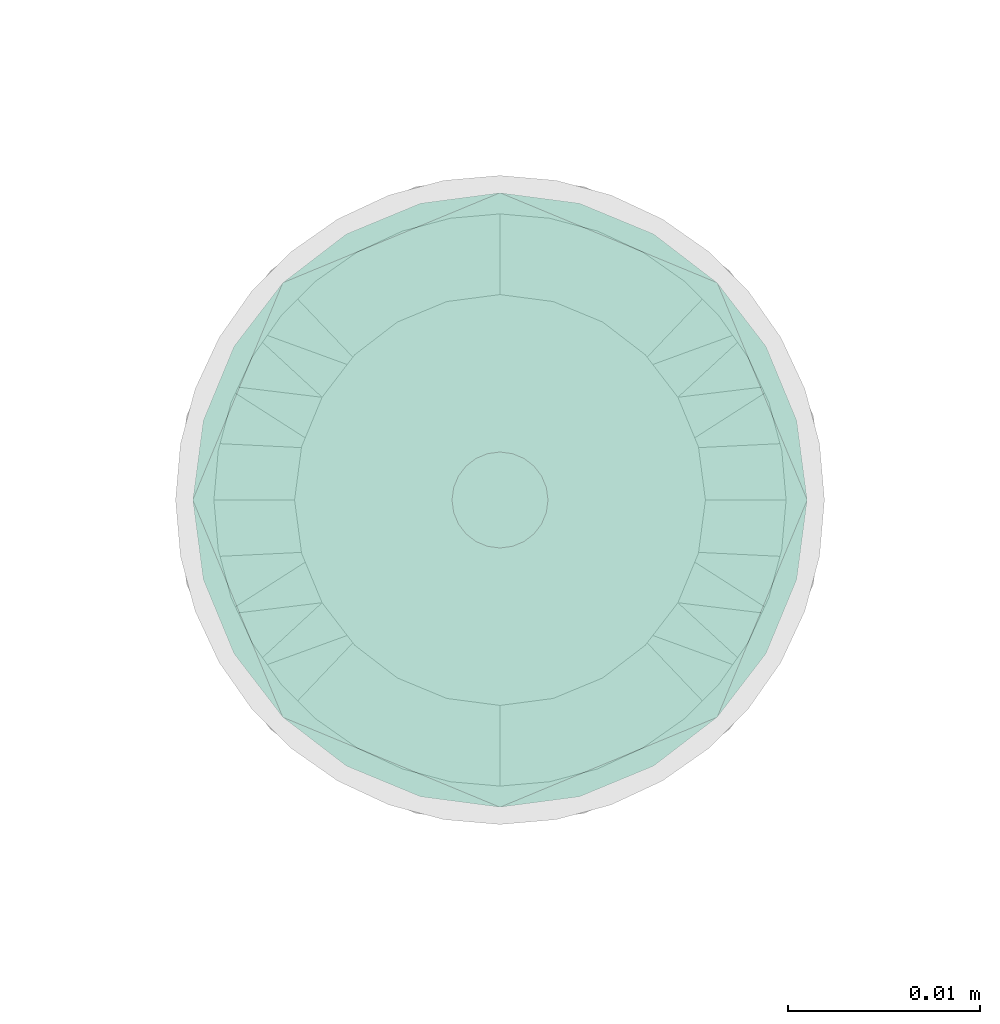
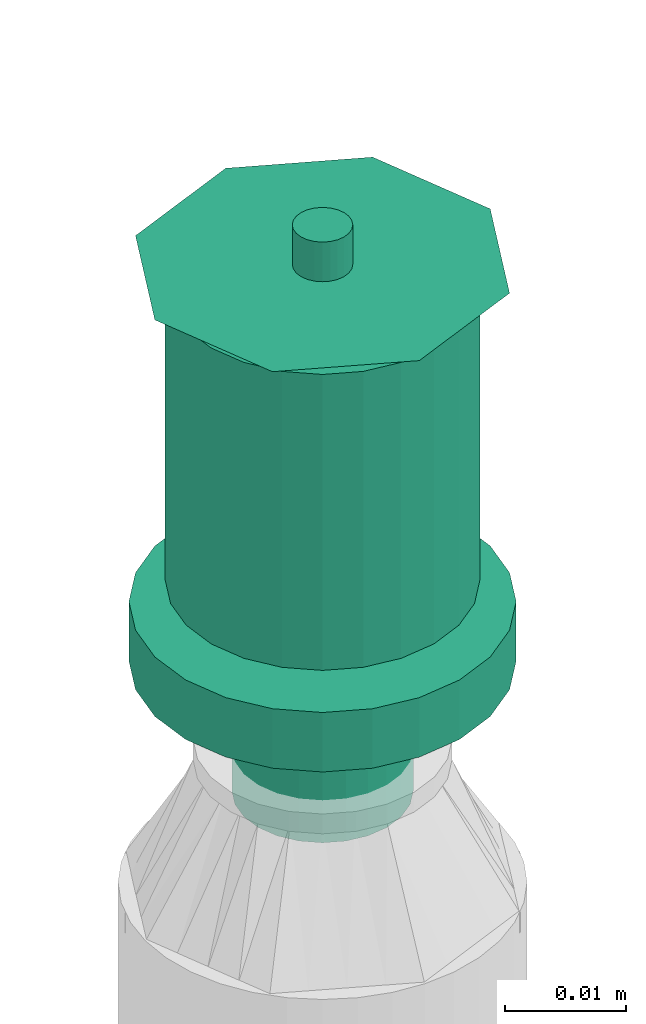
# One storey, part 47 of 63: 1 flow terminal.
"""IFC2X3 building model written with IfcOpenShell, lengths in millimetres."""

from ifc_helpers import new_model, entity, si_unit, converted_unit, derived_unit, direction, frame, origin_with_axes, place, context, subcontext, project, spatial, open_shell, surface_model, source, transform, mapped, type_object, element, save


model = new_model("IFC2X3")

# Units and contexts
model_context = context("Model", 3, precision=0.01, world=frame((0.0, 4.29681676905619e-09, 0.0)), true_north=direction((4.01073788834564e-13, 1.0)))
plan_context = context("Plan", 3, precision=0.01, world=frame((0.0, 4.29681676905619e-09, 0.0)), true_north=direction((4.01073788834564e-13, 1.0)))
body_context = subcontext(model_context, "Body", "Model", "MODEL_VIEW")
ifc_project = project(units=[converted_unit("PLANEANGLEUNIT", "DEGREE", entity("IfcPositiveLengthMeasure", 0.0174532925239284), si_unit("PLANEANGLEUNIT", "RADIAN"), dimensions=[0, 0, 0, 0, 0, 0, 0]), si_unit("AREAUNIT", "SQUARE_METRE"), si_unit("LENGTHUNIT", "METRE", prefix="MILLI"), si_unit("MASSUNIT", "GRAM", prefix="KILO"), si_unit("POWERUNIT", "WATT"), si_unit("PRESSUREUNIT", "PASCAL", prefix="KILO"), si_unit("FORCEUNIT", "NEWTON", prefix="KILO"), si_unit("ELECTRICVOLTAGEUNIT", "VOLT"), si_unit("ELECTRICCURRENTUNIT", "AMPERE"), si_unit("THERMODYNAMICTEMPERATUREUNIT", "DEGREE_CELSIUS"), si_unit("TIMEUNIT", "SECOND"), si_unit("VOLUMEUNIT", "CUBIC_METRE"), derived_unit("LINEARVELOCITYUNIT", [(si_unit("LENGTHUNIT", "METRE"), 1), (si_unit("TIMEUNIT", "SECOND"), -1)]), derived_unit("VOLUMETRICFLOWRATEUNIT", [(si_unit("VOLUMEUNIT", "CUBIC_METRE"), 1), (si_unit("TIMEUNIT", "SECOND"), -1)]), derived_unit("THERMALTRANSMITTANCEUNIT", [(si_unit("POWERUNIT", "WATT"), 1), (si_unit("THERMODYNAMICTEMPERATUREUNIT", "KELVIN"), -1), (si_unit("AREAUNIT", "SQUARE_METRE"), -1)]), derived_unit("SOUNDPRESSUREUNIT", [(si_unit("PRESSUREUNIT", "PASCAL"), 1)])], contexts=[model_context, plan_context])

# Site, building, storey
site_placement = place(None, frame((0.0, -4.29681676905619e-09, 0.0), z_axis=(0.0, 0.0, 1.0), x_axis=(1.0, 0.0, 0.0)))
site = spatial("IfcSite", under=ifc_project, at=site_placement, CompositionType="ELEMENT")
building_placement = place(site_placement, frame((0.0, 4.29681676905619e-09, 0.0), z_axis=(0.0, 0.0, 1.0), x_axis=(1.0, 0.0, 0.0)))
building = spatial("IfcBuilding", under=site, at=building_placement, Name="mc-building", CompositionType="ELEMENT")
storey_placement = place(building_placement, frame((0.0, 0.0, 207370.0), z_axis=(0.0, 0.0, 1.0), x_axis=(1.0, 0.0, 0.0)))
storey = spatial("IfcBuildingStorey", under=building, at=storey_placement, Name="Nivå E", CompositionType="ELEMENT", Elevation=207370.0)

# Flow terminal
fire_suppression_terminal_type = type_object("IfcFireSuppressionTerminalType", Name="68DGR-STD-STÅENDE", PredefinedType="NOTDEFINED")
shared_shape = source(origin_with_axes(), body_context, "Body", "SurfaceModel", [
    surface_model("IfcShellBasedSurfaceModel", [(3.36465, -12.55704, 51.0), (6.5, -11.25833, 51.0), (9.19239, -9.19239, 51.0), (12.55704, -3.36465, 51.0), (-11.25833, -6.5, 51.0), (11.25833, -6.5, 51.0), (-13.0, 0.0, 51.0), (0.0, -13.0, 51.0), (-6.5, -11.25833, 51.0), (-3.36465, -12.55704, 51.0), (-9.19239, -9.19239, 51.0), (-12.55704, -3.36465, 51.0), (13.0, 0.0, 51.0), (12.55704, 3.36465, 51.0), (11.25833, 6.5, 51.0), (9.19239, 9.19239, 51.0), (6.5, 11.25833, 51.0), (3.36465, 12.55704, 51.0), (0.0, 13.0, 51.0), (-3.36465, 12.55704, 51.0), (-12.55704, 3.36465, 51.0), (-9.19239, 9.19239, 51.0), (-11.25833, 6.5, 51.0), (-6.5, 11.25833, 51.0), (0.0, 13.0, 21.14766), (3.36465, 12.55704, 21.14766), (6.5, 11.25833, 21.14766), (-3.36465, 12.55704, 21.14766), (9.19239, 9.19239, 21.14766), (11.25833, 6.5, 21.14766), (12.55704, 3.36465, 21.14766), (-12.55704, 3.36465, 21.14766), (-11.25833, -6.5, 21.14766), (-9.19239, 9.19239, 21.14766), (-6.5, 11.25833, 21.14766), (-11.25833, 6.5, 21.14766), (-13.0, 0.0, 21.14766), (12.55704, -3.36465, 21.14766), (9.19239, -9.19239, 21.14766), (11.25833, -6.5, 21.14766), (6.5, -11.25833, 21.14766), (3.36465, -12.55704, 21.14766), (-6.5, -11.25833, 21.14766), (-9.19239, -9.19239, 21.14766), (-12.55704, -3.36465, 21.14766), (0.0, -13.0, 21.14766), (-3.36465, -12.55704, 21.14766), (13.0, 0.0, 21.14766), (7.24444, -1.94114, 0.1), (1.94114, -7.24444, 0.1), (3.75, -6.49519, 0.1), (5.3033, -5.3033, 0.1), (-5.3033, -5.3033, 0.1), (6.49519, -3.75, 0.1), (5.3033, 5.3033, 0.1), (0.0, -7.5, 0.1), (-3.75, -6.49519, 0.1), (-1.94114, -7.24444, 0.1), (-7.24444, -1.94114, 0.1), (-6.49519, -3.75, 0.1), (-7.24444, 1.94114, 0.1), (7.5, 0.0, 0.1), (6.49519, 3.75, 0.1), (-6.49519, 3.75, 0.1), (1.94114, 7.24444, 0.1), (0.0, 7.5, 0.1), (3.75, 6.49519, 0.1), (-7.5, 0.0, 0.1), (-5.3033, 5.3033, 0.1), (-1.94114, 7.24444, 0.1), (-3.75, 6.49519, 0.1), (7.24444, 1.94114, 0.1), (1.94114, 7.24444, -0.1), (-6.49519, 3.75, -0.1), (0.0, 7.5, -0.1), (5.3033, 5.3033, -0.1), (3.75, 6.49519, -0.1), (6.49519, 3.75, -0.1), (7.24444, 1.94114, -0.1), (-1.94114, 7.24444, -0.1), (-5.3033, 5.3033, -0.1), (-3.75, 6.49519, -0.1), (-7.24444, 1.94114, -0.1), (-7.24444, -1.94114, -0.1), (-7.5, 0.0, -0.1), (7.5, 0.0, -0.1), (7.24444, -1.94114, -0.1), (-5.3033, -5.3033, -0.1), (1.94114, -7.24444, -0.1), (6.49519, -3.75, -0.1), (5.3033, -5.3033, -0.1), (3.75, -6.49519, -0.1), (-6.49519, -3.75, -0.1), (-3.75, -6.49519, -0.1), (0.0, -7.5, -0.1), (-1.94114, -7.24444, -0.1), (0.0, -2.5, 51.0), (-2.5, 0.0, 51.0), (0.0, 2.5, 51.0), (2.5, 0.0, 51.0), (0.0, -16.0, 53.0), (11.31371, -11.31371, 53.0), (-11.31371, -11.31371, 53.0), (-16.0, 0.0, 53.0), (16.0, 0.0, 53.0), (11.31371, 11.31371, 53.0), (0.0, 16.0, 53.0), (-11.31371, 11.31371, 53.0), (1.25, -2.16506, 57.0), (0.0, -2.5, 57.0), (0.64705, -2.41481, 57.0), (2.41481, -0.64705, 57.0), (1.76777, -1.76777, 57.0), (-2.41481, -0.64705, 57.0), (-2.5, 0.0, 57.0), (2.16506, -1.25, 57.0), (-1.25, -2.16506, 57.0), (-0.64705, -2.41481, 57.0), (-1.76777, -1.76777, 57.0), (-2.16506, -1.25, 57.0), (2.5, 0.0, 57.0), (2.41481, 0.64705, 57.0), (2.16506, 1.25, 57.0), (1.76777, 1.76777, 57.0), (0.64705, 2.41481, 57.0), (1.25, 2.16506, 57.0), (-1.76777, 1.76777, 57.0), (0.0, 2.5, 57.0), (-2.16506, 1.25, 57.0), (-2.41481, 0.64705, 57.0), (-0.64705, 2.41481, 57.0), (-1.25, 2.16506, 57.0), (1.25, 2.16506, 51.0), (1.76777, 1.76777, 51.0), (1.15, 1.99186, 51.0), (0.59528, 2.22163, 51.0), (0.64705, 2.41481, 51.0), (0.0, 2.3, 51.0), (1.62635, 1.62635, 51.0), (2.41481, 0.64705, 51.0), (2.3, 0.0, 51.0), (2.22163, 0.59528, 51.0), (2.16506, 1.25, 51.0), (1.99186, 1.15, 51.0), (-0.59528, 2.22163, 51.0), (-0.64705, 2.41481, 51.0), (-1.15, 1.99186, 51.0), (-1.76777, 1.76777, 51.0), (-1.25, 2.16506, 51.0), (-1.62635, 1.62635, 51.0), (-1.99186, 1.15, 51.0), (-2.16506, 1.25, 51.0), (-2.22163, 0.59528, 51.0), (-2.41481, 0.64705, 51.0), (-2.3, 0.0, 51.0), (2.41481, -0.64705, 51.0), (2.22163, -0.59528, 51.0), (1.99186, -1.15, 51.0), (2.16506, -1.25, 51.0), (1.62635, -1.62635, 51.0), (1.76777, -1.76777, 51.0), (1.25, -2.16506, 51.0), (1.15, -1.99186, 51.0), (0.59528, -2.22163, 51.0), (0.64705, -2.41481, 51.0), (0.0, -2.3, 51.0), (-2.16506, -1.25, 51.0), (-1.99186, -1.15, 51.0), (-1.76777, -1.76777, 51.0), (-1.62635, -1.62635, 51.0), (-2.41481, -0.64705, 51.0), (-2.22163, -0.59528, 51.0), (-0.59528, -2.22163, 51.0), (-0.64705, -2.41481, 51.0), (-1.15, -1.99186, 51.0), (-1.25, -2.16506, 51.0), (1.62635, -1.62635, 56.8), (1.15, -1.99186, 56.8), (0.59528, -2.22163, 56.8), (0.0, -2.3, 56.8), (2.22163, 0.59528, 56.8), (1.99186, -1.15, 56.8), (2.22163, -0.59528, 56.8), (-0.59528, -2.22163, 56.8), (-1.15, -1.99186, 56.8), (-1.62635, -1.62635, 56.8), (-1.99186, -1.15, 56.8), (-2.22163, -0.59528, 56.8), (-1.99186, 1.15, 56.8), (2.3, 0.0, 56.8), (1.62635, 1.62635, 56.8), (1.99186, 1.15, 56.8), (1.15, 1.99186, 56.8), (0.0, 2.3, 56.8), (0.59528, 2.22163, 56.8), (-2.22163, 0.59528, 56.8), (-2.3, 0.0, 56.8), (-1.15, 1.99186, 56.8), (-0.59528, 2.22163, 56.8), (-1.62635, 1.62635, 56.8), (4.1411, -15.45481, 19.0), (8.0, -13.85641, 19.0), (11.31371, -11.31371, 19.0), (-8.0, -13.85641, 19.0), (15.45481, -4.1411, 19.0), (16.0, 0.0, 19.0), (13.85641, -8.0, 19.0), (0.0, -16.0, 19.0), (-4.1411, -15.45481, 19.0), (-13.85641, -8.0, 19.0), (-11.31371, -11.31371, 19.0), (-15.45481, -4.1411, 19.0), (15.45481, 4.1411, 19.0), (13.85641, 8.0, 19.0), (11.31371, 11.31371, 19.0), (-4.1411, 15.45481, 19.0), (8.0, 13.85641, 19.0), (4.1411, 15.45481, 19.0), (0.0, 16.0, 19.0), (-13.85641, 8.0, 19.0), (-15.45481, 4.1411, 19.0), (-16.0, 0.0, 19.0), (-11.31371, 11.31371, 19.0), (-8.0, 13.85641, 19.0), (0.0, 16.0, 13.0), (4.1411, 15.45481, 13.0), (8.0, 13.85641, 13.0), (-4.1411, 15.45481, 13.0), (11.31371, 11.31371, 13.0), (13.85641, 8.0, 13.0), (15.45481, 4.1411, 13.0), (-15.45481, -4.1411, 13.0), (-11.31371, 11.31371, 13.0), (-8.0, 13.85641, 13.0), (-13.85641, 8.0, 13.0), (-15.45481, 4.1411, 13.0), (-16.0, 0.0, 13.0), (4.1411, -15.45481, 13.0), (16.0, 0.0, 13.0), (15.45481, -4.1411, 13.0), (13.85641, -8.0, 13.0), (11.31371, -11.31371, 13.0), (8.0, -13.85641, 13.0), (-8.0, -13.85641, 13.0), (-13.85641, -8.0, 13.0), (-11.31371, -11.31371, 13.0), (0.0, -16.0, 13.0), (-4.1411, -15.45481, 13.0), (7.24444, -1.94114, 13.0), (1.94114, -7.24444, 13.0), (3.75, -6.49519, 13.0), (5.3033, -5.3033, 13.0), (-5.3033, -5.3033, 13.0), (6.49519, -3.75, 13.0), (5.3033, 5.3033, 13.0), (0.0, -7.5, 13.0), (-3.75, -6.49519, 13.0), (-1.94114, -7.24444, 13.0), (-7.24444, -1.94114, 13.0), (-6.49519, -3.75, 13.0), (-7.24444, 1.94114, 13.0), (7.5, 0.0, 13.0), (6.49519, 3.75, 13.0), (-6.49519, 3.75, 13.0), (1.94114, 7.24444, 13.0), (0.0, 7.5, 13.0), (3.75, 6.49519, 13.0), (-7.5, 0.0, 13.0), (-5.3033, 5.3033, 13.0), (-1.94114, 7.24444, 13.0), (-3.75, 6.49519, 13.0), (7.24444, 1.94114, 13.0), (3.75, 6.49519, 0.0), (5.3033, 5.3033, 0.0), (3.65, 6.32199, 0.0), (1.88938, 7.05126, 0.0), (0.0, 7.3, 0.0), (1.94114, 7.24444, 0.0), (0.0, 7.5, 0.0), (5.16188, 5.16188, 0.0), (7.24444, 1.94114, 0.0), (7.3, 0.0, 0.0), (7.05126, 1.88938, 0.0), (7.5, 0.0, 0.0), (6.49519, 3.75, 0.0), (6.32199, 3.65, 0.0), (-1.88938, 7.05126, 0.0), (-1.94114, 7.24444, 0.0), (-3.65, 6.32199, 0.0), (-5.3033, 5.3033, 0.0), (-3.75, 6.49519, 0.0), (-5.16188, 5.16188, 0.0), (-6.32199, 3.65, 0.0), (-6.49519, 3.75, 0.0), (-7.05126, 1.88938, 0.0), (-7.24444, 1.94114, 0.0), (-7.3, 0.0, 0.0), (-7.5, 0.0, 0.0), (7.24444, -1.94114, 0.0), (7.05126, -1.88938, 0.0), (6.32199, -3.65, 0.0), (6.49519, -3.75, 0.0), (5.16188, -5.16188, 0.0), (5.3033, -5.3033, 0.0), (3.75, -6.49519, 0.0), (3.65, -6.32199, 0.0), (1.88938, -7.05126, 0.0), (1.94114, -7.24444, 0.0), (0.0, -7.3, 0.0), (0.0, -7.5, 0.0), (-6.49519, -3.75, 0.0), (-6.32199, -3.65, 0.0), (-5.3033, -5.3033, 0.0), (-5.16188, -5.16188, 0.0), (-7.24444, -1.94114, 0.0), (-7.05126, -1.88938, 0.0), (-1.88938, -7.05126, 0.0), (-1.94114, -7.24444, 0.0), (-3.65, -6.32199, 0.0), (-3.75, -6.49519, 0.0), (1.88938, -7.05126, 12.8), (0.0, -7.3, 12.8), (3.65, -6.32199, 12.8), (5.16188, -5.16188, 12.8), (6.32199, -3.65, 12.8), (7.05126, 1.88938, 12.8), (7.05126, -1.88938, 12.8), (-5.16188, -5.16188, 12.8), (-1.88938, -7.05126, 12.8), (-3.65, -6.32199, 12.8), (-6.32199, -3.65, 12.8), (-7.05126, -1.88938, 12.8), (0.0, 7.3, 12.8), (7.3, 0.0, 12.8), (6.32199, 3.65, 12.8), (5.16188, 5.16188, 12.8), (3.65, 6.32199, 12.8), (1.88938, 7.05126, 12.8), (-6.32199, 3.65, 12.8), (-7.05126, 1.88938, 12.8), (-7.3, 0.0, 12.8), (-3.65, 6.32199, 12.8), (-1.88938, 7.05126, 12.8), (-5.16188, 5.16188, 12.8)], [open_shell([[[0, 1, 2]], [[0, 2, 3]], [[0, 3, 4]], [[3, 2, 5]], [[6, 4, 3]], [[7, 8, 9]], [[7, 0, 8]], [[8, 4, 10]], [[0, 4, 8]], [[4, 6, 11]], [[6, 3, 12]], [[13, 14, 15]], [[6, 13, 15]], [[16, 17, 18]], [[15, 16, 19]], [[18, 19, 16]], [[20, 21, 22]], [[20, 6, 15]], [[21, 19, 23]], [[19, 21, 20]], [[15, 19, 20]], [[13, 6, 12]], [[24, 25, 26]], [[27, 24, 26]], [[28, 29, 30]], [[26, 28, 31]], [[28, 32, 31]], [[27, 33, 34]], [[33, 27, 31]], [[33, 31, 35]], [[27, 26, 31]], [[31, 32, 36]], [[32, 28, 30]], [[32, 30, 37]], [[38, 37, 39]], [[38, 40, 41]], [[38, 41, 37]], [[32, 37, 41]], [[32, 42, 43]], [[44, 36, 32]], [[42, 45, 46]], [[42, 32, 41]], [[45, 42, 41]], [[30, 47, 37]], [[4, 32, 43]], [[8, 42, 46]], [[43, 42, 10]], [[9, 46, 45]], [[36, 11, 6]], [[11, 36, 44]], [[11, 44, 4]], [[44, 32, 4]], [[43, 10, 4]], [[8, 10, 42]], [[46, 9, 8]], [[45, 7, 9]], [[0, 41, 40]], [[38, 1, 40]], [[5, 39, 37]], [[38, 39, 2]], [[3, 37, 47]], [[41, 0, 7]], [[40, 1, 0]], [[38, 2, 1]], [[39, 5, 2]], [[3, 5, 37]], [[47, 12, 3]], [[41, 7, 45]], [[30, 13, 47]], [[29, 14, 30]], [[25, 24, 17]], [[15, 29, 28]], [[30, 14, 13]], [[13, 12, 47]], [[16, 26, 17]], [[16, 15, 28]], [[26, 25, 17]], [[15, 14, 29]], [[28, 26, 16]], [[24, 18, 17]], [[19, 27, 34]], [[33, 23, 34]], [[22, 35, 31]], [[33, 35, 21]], [[20, 31, 36]], [[27, 19, 18]], [[34, 23, 19]], [[33, 21, 23]], [[35, 22, 21]], [[20, 22, 31]], [[36, 6, 20]], [[27, 18, 24]], [[48, 49, 50]], [[48, 50, 51]], [[49, 48, 52]], [[48, 51, 53]], [[54, 52, 48]], [[55, 56, 57]], [[56, 55, 52]], [[52, 58, 59]], [[52, 55, 49]], [[52, 60, 58]], [[54, 48, 61]], [[62, 54, 61]], [[54, 63, 52]], [[64, 65, 54]], [[64, 54, 66]], [[63, 54, 65]], [[63, 60, 52]], [[67, 58, 60]], [[68, 69, 70]], [[69, 68, 63]], [[69, 63, 65]], [[71, 62, 61]], [[72, 73, 74]], [[75, 72, 76]], [[75, 77, 78]], [[72, 75, 73]], [[78, 73, 75]], [[79, 80, 81]], [[80, 79, 73]], [[74, 73, 79]], [[78, 82, 73]], [[82, 83, 84]], [[82, 78, 85]], [[86, 87, 85]], [[88, 86, 89]], [[90, 91, 88]], [[90, 88, 89]], [[87, 86, 88]], [[83, 87, 92]], [[83, 85, 87]], [[93, 94, 95]], [[94, 93, 87]], [[88, 94, 87]], [[85, 83, 82]], [[83, 58, 84]], [[92, 59, 83]], [[56, 87, 93]], [[92, 87, 52]], [[57, 93, 95]], [[83, 59, 58]], [[58, 67, 84]], [[57, 56, 93]], [[52, 87, 56]], [[52, 59, 92]], [[55, 57, 95]], [[95, 94, 55]], [[88, 49, 94]], [[91, 50, 88]], [[53, 90, 89]], [[91, 90, 51]], [[48, 89, 86]], [[91, 51, 50]], [[50, 49, 88]], [[61, 48, 86]], [[53, 89, 48]], [[53, 51, 90]], [[85, 61, 86]], [[94, 49, 55]], [[78, 71, 85]], [[77, 62, 78]], [[66, 75, 76]], [[77, 75, 54]], [[64, 76, 72]], [[78, 62, 71]], [[71, 61, 85]], [[64, 66, 76]], [[54, 75, 66]], [[54, 62, 77]], [[65, 64, 72]], [[72, 74, 65]], [[79, 69, 74]], [[81, 70, 79]], [[63, 80, 73]], [[81, 80, 68]], [[60, 73, 82]], [[81, 68, 70]], [[70, 69, 79]], [[67, 60, 82]], [[63, 73, 60]], [[63, 68, 80]], [[84, 67, 82]], [[74, 69, 65]], [[96, 97, 98]], [[98, 99, 96]], [[100, 101, 102]], [[103, 102, 101]], [[101, 104, 103]], [[104, 105, 106]], [[107, 103, 106]], [[106, 103, 104]], [[99, 98, 105]], [[105, 104, 99]], [[98, 106, 105]], [[98, 107, 106]], [[107, 98, 97]], [[103, 107, 97]], [[97, 96, 102]], [[102, 103, 97]], [[96, 100, 102]], [[96, 101, 100]], [[101, 96, 99]], [[104, 101, 99]], [[108, 109, 110]], [[111, 108, 112]], [[113, 108, 114]], [[111, 112, 115]], [[108, 111, 114]], [[109, 116, 117]], [[116, 109, 118]], [[118, 113, 119]], [[118, 109, 108]], [[108, 113, 118]], [[111, 120, 114]], [[121, 122, 123]], [[114, 121, 123]], [[114, 123, 124]], [[124, 123, 125]], [[126, 124, 127]], [[124, 128, 129]], [[129, 114, 124]], [[126, 130, 131]], [[128, 124, 126]], [[130, 126, 127]], [[121, 114, 120]], [[132, 133, 134]], [[132, 134, 135]], [[136, 135, 137]], [[135, 136, 132]], [[136, 137, 98]], [[134, 133, 138]], [[139, 140, 141]], [[140, 139, 99]], [[139, 141, 142]], [[138, 142, 143]], [[142, 138, 133]], [[143, 142, 141]], [[98, 144, 145]], [[98, 137, 144]], [[145, 144, 146]], [[147, 148, 149]], [[146, 148, 145]], [[149, 148, 146]], [[150, 151, 147]], [[151, 150, 152]], [[150, 147, 149]], [[153, 152, 154]], [[152, 153, 151]], [[153, 154, 97]], [[99, 155, 156]], [[156, 155, 157]], [[157, 158, 159]], [[158, 157, 155]], [[159, 158, 160]], [[160, 161, 162]], [[162, 161, 163]], [[163, 164, 165]], [[164, 163, 161]], [[165, 164, 96]], [[162, 159, 160]], [[166, 167, 168]], [[168, 167, 169]], [[167, 166, 170]], [[97, 171, 170]], [[170, 171, 167]], [[97, 154, 171]], [[172, 96, 173]], [[172, 173, 174]], [[169, 175, 168]], [[175, 169, 174]], [[175, 174, 173]], [[165, 96, 172]], [[156, 140, 99]], [[170, 113, 97]], [[166, 119, 170]], [[116, 168, 175]], [[166, 168, 118]], [[117, 175, 173]], [[170, 119, 113]], [[113, 114, 97]], [[117, 116, 175]], [[118, 168, 116]], [[118, 119, 166]], [[109, 117, 173]], [[173, 96, 109]], [[164, 110, 96]], [[161, 108, 164]], [[115, 160, 158]], [[161, 160, 112]], [[111, 158, 155]], [[161, 112, 108]], [[108, 110, 164]], [[120, 111, 155]], [[115, 158, 111]], [[115, 112, 160]], [[99, 120, 155]], [[96, 110, 109]], [[139, 121, 99]], [[142, 122, 139]], [[125, 133, 132]], [[142, 133, 123]], [[124, 132, 136]], [[139, 122, 121]], [[121, 120, 99]], [[124, 125, 132]], [[123, 133, 125]], [[123, 122, 142]], [[127, 124, 136]], [[136, 98, 127]], [[145, 130, 98]], [[148, 131, 145]], [[128, 147, 151]], [[148, 147, 126]], [[129, 151, 153]], [[148, 126, 131]], [[131, 130, 145]], [[114, 129, 153]], [[128, 151, 129]], [[128, 126, 147]], [[97, 114, 153]], [[98, 130, 127]], [[176, 177, 178]], [[176, 178, 179]], [[180, 176, 179]], [[181, 176, 182]], [[180, 182, 176]], [[183, 184, 179]], [[185, 179, 184]], [[186, 187, 185]], [[185, 187, 188]], [[179, 185, 188]], [[189, 182, 180]], [[190, 191, 180]], [[192, 190, 180]], [[193, 194, 192]], [[180, 193, 192]], [[188, 193, 180]], [[195, 188, 196]], [[196, 188, 187]], [[197, 198, 199]], [[188, 199, 198]], [[188, 198, 193]], [[180, 179, 188]], [[154, 187, 171]], [[171, 186, 167]], [[174, 169, 184]], [[185, 169, 167]], [[172, 174, 183]], [[187, 186, 171]], [[154, 196, 187]], [[174, 184, 183]], [[184, 169, 185]], [[167, 186, 185]], [[172, 183, 179]], [[179, 165, 172]], [[165, 178, 163]], [[163, 177, 162]], [[157, 159, 181]], [[176, 159, 162]], [[156, 157, 182]], [[177, 176, 162]], [[163, 178, 177]], [[156, 182, 189]], [[182, 157, 181]], [[159, 176, 181]], [[156, 189, 140]], [[179, 178, 165]], [[140, 180, 141]], [[141, 191, 143]], [[134, 138, 192]], [[190, 138, 143]], [[135, 134, 194]], [[180, 191, 141]], [[140, 189, 180]], [[134, 192, 194]], [[192, 138, 190]], [[143, 191, 190]], [[135, 194, 193]], [[193, 137, 135]], [[137, 198, 144]], [[144, 197, 146]], [[150, 149, 188]], [[199, 149, 146]], [[152, 150, 195]], [[197, 199, 146]], [[144, 198, 197]], [[152, 195, 196]], [[195, 150, 188]], [[149, 199, 188]], [[152, 196, 154]], [[193, 198, 137]], [[200, 201, 202]], [[203, 200, 202]], [[204, 205, 202]], [[204, 202, 206]], [[203, 202, 205]], [[207, 203, 208]], [[207, 200, 203]], [[203, 209, 210]], [[209, 203, 211]], [[205, 211, 203]], [[205, 212, 211]], [[212, 213, 214]], [[215, 212, 214]], [[216, 217, 218]], [[214, 216, 215]], [[218, 215, 216]], [[211, 219, 220]], [[221, 211, 220]], [[222, 215, 223]], [[215, 222, 219]], [[219, 211, 215]], [[211, 212, 215]], [[224, 225, 226]], [[227, 224, 226]], [[228, 229, 230]], [[227, 226, 228]], [[227, 228, 231]], [[227, 232, 233]], [[232, 227, 234]], [[234, 231, 235]], [[231, 234, 227]], [[235, 231, 236]], [[228, 230, 231]], [[237, 238, 239]], [[237, 239, 240]], [[241, 242, 237]], [[241, 237, 240]], [[238, 237, 243]], [[244, 243, 245]], [[243, 244, 231]], [[243, 246, 247]], [[243, 231, 238]], [[237, 246, 243]], [[238, 231, 230]], [[231, 211, 236]], [[244, 209, 231]], [[203, 245, 243]], [[244, 245, 210]], [[208, 243, 247]], [[231, 209, 211]], [[211, 221, 236]], [[208, 203, 243]], [[210, 245, 203]], [[210, 209, 244]], [[207, 208, 247]], [[247, 246, 207]], [[237, 200, 246]], [[242, 201, 237]], [[206, 241, 240]], [[242, 241, 202]], [[204, 240, 239]], [[242, 202, 201]], [[201, 200, 237]], [[205, 204, 239]], [[206, 240, 204]], [[206, 202, 241]], [[238, 205, 239]], [[246, 200, 207]], [[230, 212, 238]], [[229, 213, 230]], [[216, 228, 226]], [[229, 228, 214]], [[217, 226, 225]], [[230, 213, 212]], [[212, 205, 238]], [[217, 216, 226]], [[214, 228, 216]], [[214, 213, 229]], [[218, 217, 225]], [[225, 224, 218]], [[227, 215, 224]], [[233, 223, 227]], [[219, 232, 234]], [[233, 232, 222]], [[220, 234, 235]], [[233, 222, 223]], [[223, 215, 227]], [[221, 220, 235]], [[219, 234, 220]], [[219, 222, 232]], [[236, 221, 235]], [[224, 215, 218]], [[248, 249, 250]], [[248, 250, 251]], [[249, 248, 252]], [[248, 251, 253]], [[254, 252, 248]], [[255, 256, 257]], [[256, 255, 252]], [[252, 258, 259]], [[252, 255, 249]], [[252, 260, 258]], [[254, 248, 261]], [[262, 254, 261]], [[254, 263, 252]], [[264, 265, 254]], [[264, 254, 266]], [[263, 254, 265]], [[263, 260, 252]], [[267, 258, 260]], [[268, 269, 270]], [[269, 268, 263]], [[269, 263, 265]], [[271, 262, 261]], [[272, 273, 274]], [[272, 274, 275]], [[276, 277, 275]], [[277, 276, 278]], [[275, 277, 272]], [[274, 273, 279]], [[280, 281, 282]], [[281, 280, 283]], [[280, 282, 284]], [[279, 284, 285]], [[284, 279, 273]], [[285, 284, 282]], [[278, 286, 287]], [[287, 286, 288]], [[289, 290, 291]], [[288, 290, 287]], [[288, 291, 290]], [[278, 276, 286]], [[292, 293, 289]], [[293, 292, 294]], [[292, 289, 291]], [[295, 294, 296]], [[294, 295, 293]], [[295, 296, 297]], [[283, 298, 299]], [[299, 298, 300]], [[300, 301, 302]], [[301, 300, 298]], [[302, 301, 303]], [[303, 304, 305]], [[305, 304, 306]], [[306, 307, 308]], [[307, 306, 304]], [[308, 307, 309]], [[305, 302, 303]], [[310, 311, 312]], [[312, 311, 313]], [[311, 310, 314]], [[297, 315, 314]], [[314, 315, 311]], [[297, 296, 315]], [[316, 309, 317]], [[316, 317, 318]], [[313, 319, 312]], [[313, 318, 319]], [[319, 318, 317]], [[308, 309, 316]], [[299, 281, 283]], [[314, 258, 297]], [[310, 259, 314]], [[256, 312, 319]], [[310, 312, 252]], [[257, 319, 317]], [[314, 259, 258]], [[258, 267, 297]], [[257, 256, 319]], [[252, 312, 256]], [[252, 259, 310]], [[255, 257, 317]], [[317, 309, 255]], [[307, 249, 309]], [[304, 250, 307]], [[253, 303, 301]], [[304, 303, 251]], [[248, 301, 298]], [[304, 251, 250]], [[250, 249, 307]], [[261, 248, 298]], [[253, 301, 248]], [[253, 251, 303]], [[283, 261, 298]], [[309, 249, 255]], [[280, 271, 283]], [[284, 262, 280]], [[266, 273, 272]], [[284, 273, 254]], [[264, 272, 277]], [[280, 262, 271]], [[271, 261, 283]], [[264, 266, 272]], [[254, 273, 266]], [[254, 262, 284]], [[265, 264, 277]], [[277, 278, 265]], [[287, 269, 278]], [[290, 270, 287]], [[263, 289, 293]], [[290, 289, 268]], [[260, 293, 295]], [[290, 268, 270]], [[270, 269, 287]], [[267, 260, 295]], [[263, 293, 260]], [[263, 268, 289]], [[297, 267, 295]], [[278, 269, 265]], [[320, 321, 322]], [[323, 322, 324]], [[325, 326, 322]], [[324, 322, 326]], [[322, 327, 325]], [[328, 329, 321]], [[327, 321, 329]], [[330, 331, 327]], [[322, 321, 327]], [[331, 332, 327]], [[326, 325, 333]], [[334, 325, 332]], [[335, 334, 336]], [[332, 337, 336]], [[334, 332, 336]], [[331, 338, 332]], [[339, 338, 340]], [[340, 338, 331]], [[341, 342, 343]], [[332, 338, 343]], [[332, 343, 342]], [[332, 325, 327]], [[296, 331, 315]], [[315, 330, 311]], [[318, 313, 329]], [[327, 313, 311]], [[316, 318, 328]], [[331, 330, 315]], [[296, 340, 331]], [[318, 329, 328]], [[329, 313, 327]], [[311, 330, 327]], [[316, 328, 321]], [[321, 308, 316]], [[308, 320, 306]], [[306, 322, 305]], [[300, 302, 324]], [[323, 302, 305]], [[299, 300, 326]], [[322, 323, 305]], [[306, 320, 322]], [[299, 326, 333]], [[326, 300, 324]], [[302, 323, 324]], [[299, 333, 281]], [[321, 320, 308]], [[281, 325, 282]], [[282, 334, 285]], [[274, 279, 336]], [[335, 279, 285]], [[275, 274, 337]], [[325, 334, 282]], [[281, 333, 325]], [[274, 336, 337]], [[336, 279, 335]], [[285, 334, 335]], [[275, 337, 332]], [[332, 276, 275]], [[276, 342, 286]], [[286, 341, 288]], [[292, 291, 338]], [[343, 291, 288]], [[294, 292, 339]], [[341, 343, 288]], [[286, 342, 341]], [[294, 339, 340]], [[339, 292, 338]], [[291, 343, 338]], [[294, 340, 296]], [[332, 342, 276]]])]),
])
flow_terminal_placement = place(storey_placement, frame((719641.29045, 443211.22347, 3027.71994000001), z_axis=(0.0, 0.0, 1.0), x_axis=(1.0, 0.0, 0.0)))
element("IfcFlowTerminal", 1, at=flow_terminal_placement, inside=storey, type_object=fire_suppression_terminal_type, Name="68DGR-STD-STÅENDE", context=body_context, shape_type="MappedRepresentation", body=[
    mapped(shared_shape, transform((0.0, 0.0, 0.0), scale=1.0)),
])

save(model, "model.ifc")
